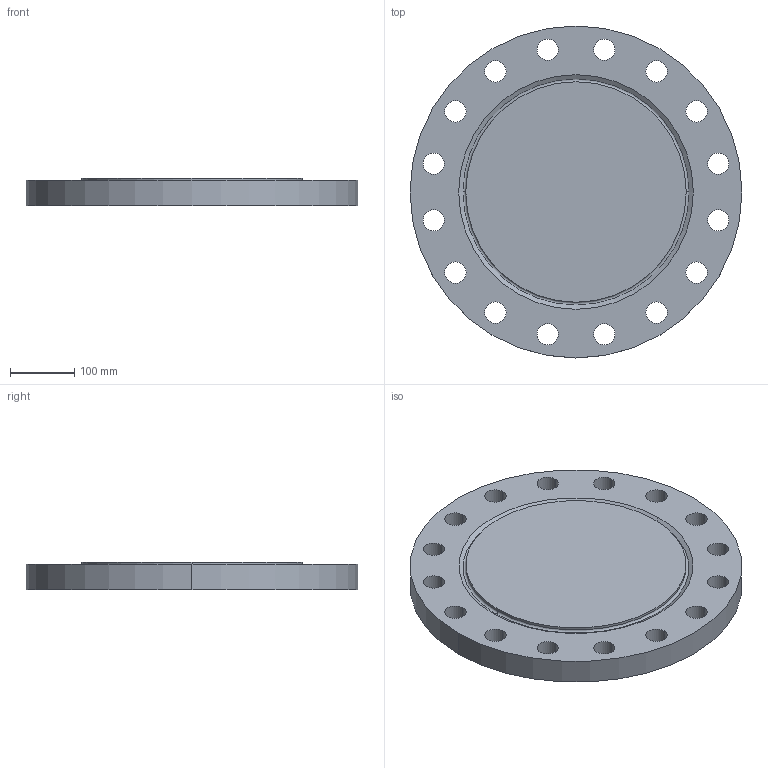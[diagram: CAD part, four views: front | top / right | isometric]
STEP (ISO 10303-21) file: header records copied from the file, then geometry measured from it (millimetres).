
FILE_DESCRIPTION (( 'STEP AP214' ), '1' );
FILE_NAME ('PN40 DN300 Type 05 - Type H Face.STEP', '2019-01-05T20:26:15', ( '' ), ( '' ), 'SwSTEP 2.0', 'SolidWorks 2019', '' );
FILE_SCHEMA (( 'AUTOMOTIVE_DESIGN' ));
Length unit declared in the file: millimetre
Products named in the file (1): PN40 DN300 Type 05 - Type H Face
Bounding box: 515 x 515 x 42 mm (x, y, z)
Volume: 7882622.1 mm3; surface area: 526223.1 mm2
Topology: 1 solids, 1 shells, 43 faces, 116 edges, 76 vertices
Faces by surface type: cylinder 36, plane 3, torus 2, cone 2
Entity records: 1494 total; most frequent: DIRECTION 282, CARTESIAN_POINT 236, ORIENTED_EDGE 232, AXIS2_PLACEMENT_3D 122, EDGE_CURVE 116, CIRCLE 78, VERTEX_POINT 76, EDGE_LOOP 76
